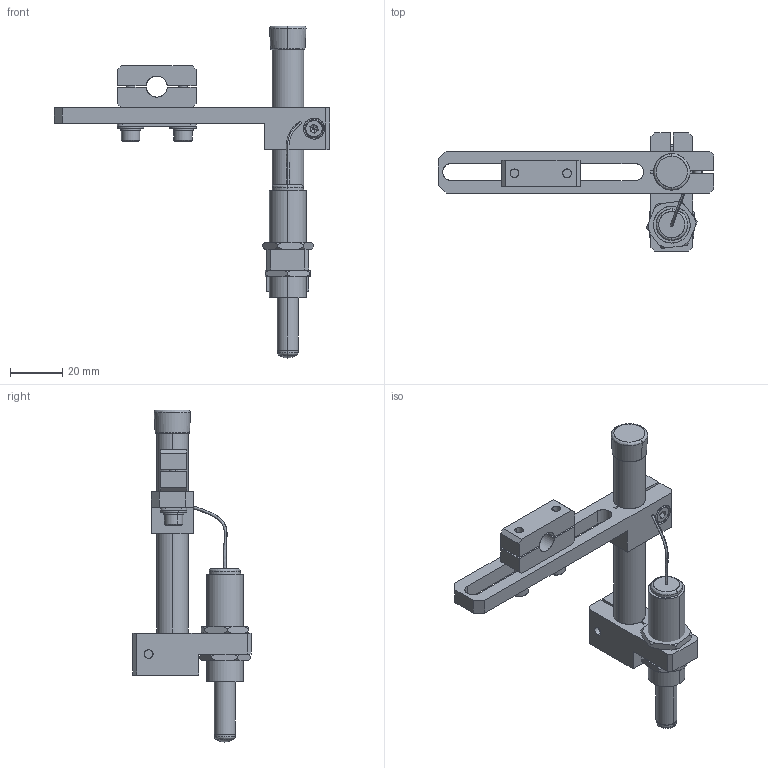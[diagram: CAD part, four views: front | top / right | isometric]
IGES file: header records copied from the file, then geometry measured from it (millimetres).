
Start section: SolidWorks IGES file using analytic representation for surfaces
Global section: file name: E:\EFCKishi\Šm”F\JLM\IGES\JLM-001.IGS; native system: SolidWorks 2006 by SolidWorks Corporation; preprocessor: SolidWorks 2006 by SolidWorks Corporation; author: CAD58; date: 080913.084601; units: millimetre
Bounding box: 105 x 45 x 126.5 mm (x, y, z)
Surface area: 27196.8 mm2 (no closed solid volume)
Topology: 0 solids, 0 shells, 285 faces, 3756 edges, 3731 vertices
Faces by surface type: bspline 168, revolution 117
